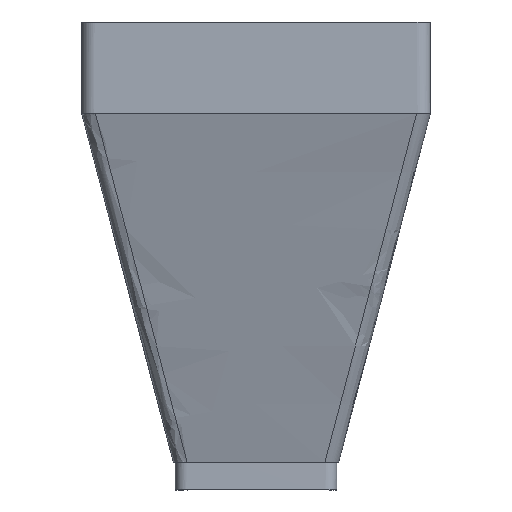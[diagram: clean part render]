
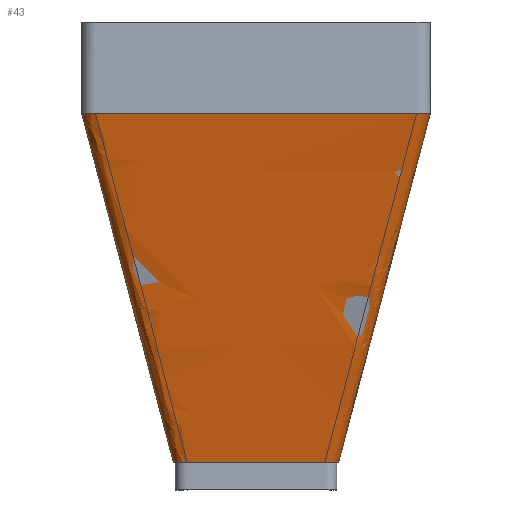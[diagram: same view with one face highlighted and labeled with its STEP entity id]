
A CAD part, front view. The second image highlights one B-rep face of the part: STEP entity #43.
In plain terms, the highlighted free-form (B-spline) face has degree [2, 3] with [9, 4] control points.
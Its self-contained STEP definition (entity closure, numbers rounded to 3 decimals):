
#43=ADVANCED_FACE('',(#85),#577,.T.);
#85=FACE_OUTER_BOUND('',#127,.T.);
#127=EDGE_LOOP('',(#226,#227,#228,#229,#230,#231,#232,#233,#234,#235));
#226=ORIENTED_EDGE('',*,*,#367,.T.);
#227=ORIENTED_EDGE('',*,*,#421,.F.);
#228=ORIENTED_EDGE('',*,*,#419,.F.);
#229=ORIENTED_EDGE('',*,*,#417,.F.);
#230=ORIENTED_EDGE('',*,*,#365,.F.);
#231=ORIENTED_EDGE('',*,*,#364,.F.);
#232=ORIENTED_EDGE('',*,*,#403,.F.);
#233=ORIENTED_EDGE('',*,*,#401,.F.);
#234=ORIENTED_EDGE('',*,*,#399,.F.);
#235=ORIENTED_EDGE('',*,*,#369,.F.);
#364=EDGE_CURVE('',#528,#529,#456,.T.);
#365=EDGE_CURVE('',#529,#557,#457,.T.);
#367=EDGE_CURVE('',#530,#531,#459,.T.);
#369=EDGE_CURVE('',#530,#548,#461,.T.);
#399=EDGE_CURVE('',#548,#549,#489,.T.);
#401=EDGE_CURVE('',#549,#550,#491,.T.);
#403=EDGE_CURVE('',#550,#528,#493,.T.);
#417=EDGE_CURVE('',#557,#558,#507,.T.);
#419=EDGE_CURVE('',#558,#559,#509,.T.);
#421=EDGE_CURVE('',#559,#531,#511,.T.);
#456=(
BOUNDED_CURVE()
B_SPLINE_CURVE(3,(#1724,#1725,#1726,#1727),.UNSPECIFIED.,.F.,.F.)
B_SPLINE_CURVE_WITH_KNOTS((4,4),(0.,405.463),.UNSPECIFIED.)
CURVE()
GEOMETRIC_REPRESENTATION_ITEM()
RATIONAL_B_SPLINE_CURVE((1.,1.,1.,1.))
REPRESENTATION_ITEM('')
);
#457=(
BOUNDED_CURVE()
B_SPLINE_CURVE(2,(#1728,#1729,#1730),.UNSPECIFIED.,.F.,.F.)
B_SPLINE_CURVE_WITH_KNOTS((3,3),(0.,23.969),.UNSPECIFIED.)
CURVE()
GEOMETRIC_REPRESENTATION_ITEM()
RATIONAL_B_SPLINE_CURVE((1.,0.707,1.))
REPRESENTATION_ITEM('')
);
#459=(
BOUNDED_CURVE()
B_SPLINE_CURVE(3,(#1734,#1735,#1736,#1737),.UNSPECIFIED.,.F.,.F.)
B_SPLINE_CURVE_WITH_KNOTS((4,4),(0.,405.463),.UNSPECIFIED.)
CURVE()
GEOMETRIC_REPRESENTATION_ITEM()
RATIONAL_B_SPLINE_CURVE((1.,1.,1.,1.))
REPRESENTATION_ITEM('')
);
#461=(
BOUNDED_CURVE()
B_SPLINE_CURVE(2,(#1741,#1742,#1743),.UNSPECIFIED.,.F.,.F.)
B_SPLINE_CURVE_WITH_KNOTS((3,3),(-760.,-403.969),.UNSPECIFIED.)
CURVE()
GEOMETRIC_REPRESENTATION_ITEM()
RATIONAL_B_SPLINE_CURVE((1.,1.,1.))
REPRESENTATION_ITEM('')
);
#489=(
BOUNDED_CURVE()
B_SPLINE_CURVE(2,(#1928,#1929,#1930),.UNSPECIFIED.,.F.,.F.)
B_SPLINE_CURVE_WITH_KNOTS((3,3),(-403.969,-380.),.UNSPECIFIED.)
CURVE()
GEOMETRIC_REPRESENTATION_ITEM()
RATIONAL_B_SPLINE_CURVE((1.,0.707,1.))
REPRESENTATION_ITEM('')
);
#491=(
BOUNDED_CURVE()
B_SPLINE_CURVE(2,(#1933,#1934,#1935),.UNSPECIFIED.,.F.,.F.)
B_SPLINE_CURVE_WITH_KNOTS((3,3),(-380.,-23.969),.UNSPECIFIED.)
CURVE()
GEOMETRIC_REPRESENTATION_ITEM()
RATIONAL_B_SPLINE_CURVE((1.,1.,1.))
REPRESENTATION_ITEM('')
);
#493=(
BOUNDED_CURVE()
B_SPLINE_CURVE(2,(#1938,#1939,#1940),.UNSPECIFIED.,.F.,.F.)
B_SPLINE_CURVE_WITH_KNOTS((3,3),(-23.969,0.),.UNSPECIFIED.)
CURVE()
GEOMETRIC_REPRESENTATION_ITEM()
RATIONAL_B_SPLINE_CURVE((1.,0.707,1.))
REPRESENTATION_ITEM('')
);
#507=(
BOUNDED_CURVE()
B_SPLINE_CURVE(2,(#1973,#1974,#1975),.UNSPECIFIED.,.F.,.F.)
B_SPLINE_CURVE_WITH_KNOTS((3,3),(23.969,380.),.UNSPECIFIED.)
CURVE()
GEOMETRIC_REPRESENTATION_ITEM()
RATIONAL_B_SPLINE_CURVE((1.,1.,1.))
REPRESENTATION_ITEM('')
);
#509=(
BOUNDED_CURVE()
B_SPLINE_CURVE(2,(#1978,#1979,#1980),.UNSPECIFIED.,.F.,.F.)
B_SPLINE_CURVE_WITH_KNOTS((3,3),(380.,403.969),.UNSPECIFIED.)
CURVE()
GEOMETRIC_REPRESENTATION_ITEM()
RATIONAL_B_SPLINE_CURVE((1.,0.707,1.))
REPRESENTATION_ITEM('')
);
#511=(
BOUNDED_CURVE()
B_SPLINE_CURVE(2,(#1983,#1984,#1985),.UNSPECIFIED.,.F.,.F.)
B_SPLINE_CURVE_WITH_KNOTS((3,3),(403.969,760.),.UNSPECIFIED.)
CURVE()
GEOMETRIC_REPRESENTATION_ITEM()
RATIONAL_B_SPLINE_CURVE((1.,1.,1.))
REPRESENTATION_ITEM('')
);
#528=VERTEX_POINT('',#1692);
#529=VERTEX_POINT('',#1693);
#530=VERTEX_POINT('',#1694);
#531=VERTEX_POINT('',#1695);
#548=VERTEX_POINT('',#1712);
#549=VERTEX_POINT('',#1713);
#550=VERTEX_POINT('',#1714);
#557=VERTEX_POINT('',#1721);
#558=VERTEX_POINT('',#1722);
#559=VERTEX_POINT('',#1723);
#577=(
BOUNDED_SURFACE()
B_SPLINE_SURFACE(2,3,((#1228,#1229,#1230,#1231),(#1232,#1233,#1234,#1235),
(#1236,#1237,#1238,#1239),(#1240,#1241,#1242,#1243),(#1244,#1245,#1246,
#1247),(#1248,#1249,#1250,#1251),(#1252,#1253,#1254,#1255),(#1256,#1257,
#1258,#1259),(#1260,#1261,#1262,#1263)),.UNSPECIFIED.,.F.,.F.,.F.)
B_SPLINE_SURFACE_WITH_KNOTS((3,2,2,2,3),(4,4),(0.,23.969,380.,
403.969,760.),(0.,405.463),.UNSPECIFIED.)
GEOMETRIC_REPRESENTATION_ITEM()
RATIONAL_B_SPLINE_SURFACE(((1.,1.,1.,1.),(0.707,0.707,
0.707,0.707),(1.,1.,1.,1.),(1.,1.,1.,1.),(1.,1.,
1.,1.),(0.707,0.707,0.707,0.707),
(1.,1.,1.,1.),(1.,1.,1.,1.),(1.,1.,1.,1.)))
REPRESENTATION_ITEM('')
SURFACE()
);
#1228=CARTESIAN_POINT('',(-160.,-75.,6320.));
#1229=CARTESIAN_POINT('',(-193.333,-108.333,6446.667));
#1230=CARTESIAN_POINT('',(-226.667,-141.667,6573.333));
#1231=CARTESIAN_POINT('',(-260.,-175.,6700.));
#1232=CARTESIAN_POINT('',(-160.,-90.,6320.));
#1233=CARTESIAN_POINT('',(-193.333,-123.333,6446.667));
#1234=CARTESIAN_POINT('',(-226.667,-156.667,6573.333));
#1235=CARTESIAN_POINT('',(-260.,-190.,6700.));
#1236=CARTESIAN_POINT('',(-145.,-90.,6320.));
#1237=CARTESIAN_POINT('',(-178.333,-123.333,6446.667));
#1238=CARTESIAN_POINT('',(-211.667,-156.667,6573.333));
#1239=CARTESIAN_POINT('',(-245.,-190.,6700.));
#1240=CARTESIAN_POINT('',(-70.,-90.,6320.));
#1241=CARTESIAN_POINT('',(-70.,-123.333,6446.667));
#1242=CARTESIAN_POINT('',(-70.,-156.667,6573.333));
#1243=CARTESIAN_POINT('',(-70.,-190.,6700.));
#1244=CARTESIAN_POINT('',(5.,-90.,6320.));
#1245=CARTESIAN_POINT('',(38.333,-123.333,6446.667));
#1246=CARTESIAN_POINT('',(71.667,-156.667,6573.333));
#1247=CARTESIAN_POINT('',(105.,-190.,6700.));
#1248=CARTESIAN_POINT('',(20.,-90.,6320.));
#1249=CARTESIAN_POINT('',(53.333,-123.333,6446.667));
#1250=CARTESIAN_POINT('',(86.667,-156.667,6573.333));
#1251=CARTESIAN_POINT('',(120.,-190.,6700.));
#1252=CARTESIAN_POINT('',(20.,-75.,6320.));
#1253=CARTESIAN_POINT('',(53.333,-108.333,6446.667));
#1254=CARTESIAN_POINT('',(86.667,-141.667,6573.333));
#1255=CARTESIAN_POINT('',(120.,-175.,6700.));
#1256=CARTESIAN_POINT('',(20.,0.,6320.));
#1257=CARTESIAN_POINT('',(53.333,0.,6446.667));
#1258=CARTESIAN_POINT('',(86.667,0.,6573.333));
#1259=CARTESIAN_POINT('',(120.,0.,6700.));
#1260=CARTESIAN_POINT('',(20.,75.,6320.));
#1261=CARTESIAN_POINT('',(53.333,108.333,6446.667));
#1262=CARTESIAN_POINT('',(86.667,141.667,6573.333));
#1263=CARTESIAN_POINT('',(120.,175.,6700.));
#1692=CARTESIAN_POINT('',(-160.,-75.,6320.));
#1693=CARTESIAN_POINT('',(-260.,-175.,6700.));
#1694=CARTESIAN_POINT('',(20.,75.,6320.));
#1695=CARTESIAN_POINT('',(120.,175.,6700.));
#1712=CARTESIAN_POINT('',(20.,-75.,6320.));
#1713=CARTESIAN_POINT('',(5.,-90.,6320.));
#1714=CARTESIAN_POINT('',(-145.,-90.,6320.));
#1721=CARTESIAN_POINT('',(-245.,-190.,6700.));
#1722=CARTESIAN_POINT('',(105.,-190.,6700.));
#1723=CARTESIAN_POINT('',(120.,-175.,6700.));
#1724=CARTESIAN_POINT('',(-160.,-75.,6320.));
#1725=CARTESIAN_POINT('',(-193.333,-108.333,6446.667));
#1726=CARTESIAN_POINT('',(-226.667,-141.667,6573.333));
#1727=CARTESIAN_POINT('',(-260.,-175.,6700.));
#1728=CARTESIAN_POINT('',(-260.,-175.,6700.));
#1729=CARTESIAN_POINT('',(-260.,-190.,6700.));
#1730=CARTESIAN_POINT('',(-245.,-190.,6700.));
#1734=CARTESIAN_POINT('',(20.,75.,6320.));
#1735=CARTESIAN_POINT('',(53.333,108.333,6446.667));
#1736=CARTESIAN_POINT('',(86.667,141.667,6573.333));
#1737=CARTESIAN_POINT('',(120.,175.,6700.));
#1741=CARTESIAN_POINT('',(20.,75.,6320.));
#1742=CARTESIAN_POINT('',(20.,0.,6320.));
#1743=CARTESIAN_POINT('',(20.,-75.,6320.));
#1928=CARTESIAN_POINT('',(20.,-75.,6320.));
#1929=CARTESIAN_POINT('',(20.,-90.,6320.));
#1930=CARTESIAN_POINT('',(5.,-90.,6320.));
#1933=CARTESIAN_POINT('',(5.,-90.,6320.));
#1934=CARTESIAN_POINT('',(-70.,-90.,6320.));
#1935=CARTESIAN_POINT('',(-145.,-90.,6320.));
#1938=CARTESIAN_POINT('',(-145.,-90.,6320.));
#1939=CARTESIAN_POINT('',(-160.,-90.,6320.));
#1940=CARTESIAN_POINT('',(-160.,-75.,6320.));
#1973=CARTESIAN_POINT('',(-245.,-190.,6700.));
#1974=CARTESIAN_POINT('',(-70.,-190.,6700.));
#1975=CARTESIAN_POINT('',(105.,-190.,6700.));
#1978=CARTESIAN_POINT('',(105.,-190.,6700.));
#1979=CARTESIAN_POINT('',(120.,-190.,6700.));
#1980=CARTESIAN_POINT('',(120.,-175.,6700.));
#1983=CARTESIAN_POINT('',(120.,-175.,6700.));
#1984=CARTESIAN_POINT('',(120.,0.,6700.));
#1985=CARTESIAN_POINT('',(120.,175.,6700.));
